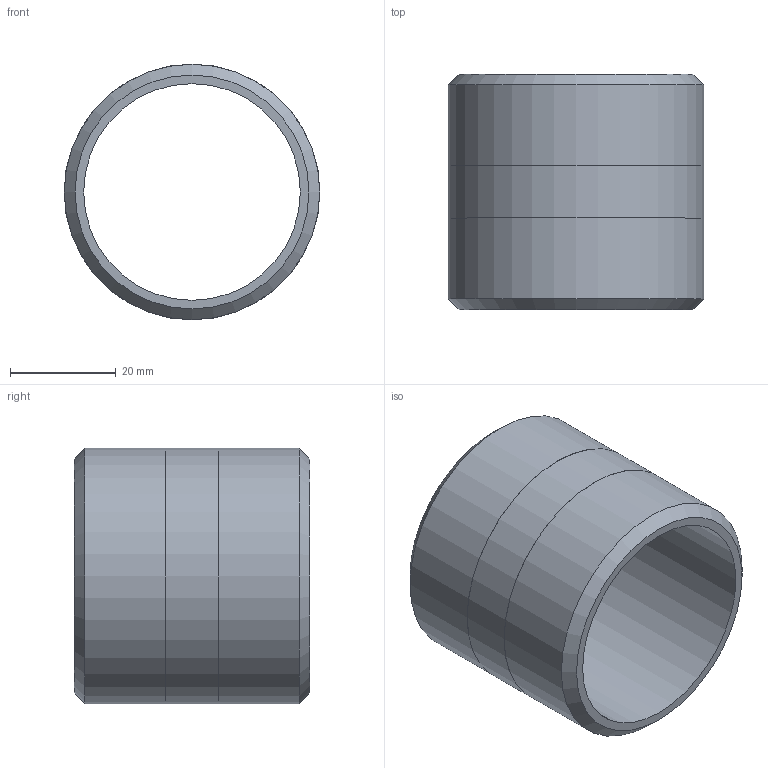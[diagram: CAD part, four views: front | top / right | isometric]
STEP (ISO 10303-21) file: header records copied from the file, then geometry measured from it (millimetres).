
FILE_DESCRIPTION(/* description */ (''),/* implementation_level */ '2;1');
FILE_NAME(/* name */ 'C:/Users/drich/Desktop/SSPN1-1_2-CLOSE v1.step',/* time_stamp */ '2020-01-03T16:21:17-06:00',/* author */ (''),/* organization */ (''),/* preprocessor_version */ 'ST-DEVELOPER v18',/* originating_system */ 'Autodesk Translation Framework v8.12.0.6',/* authorisation */ '');
FILE_SCHEMA (('AUTOMOTIVE_DESIGN { 1 0 10303 214 3 1 1 }'));
Length unit declared in the file: inch
Products named in the file (1): SSPN1-1_2-CLOSE
Bounding box: 48.26 x 44.45 x 48.26 mm (x, y, z)
Volume: 22185.4 mm3; surface area: 13104.5 mm2
Topology: 1 solids, 1 shells, 10 faces, 24 edges, 18 vertices
Faces by surface type: cylinder 4, plane 4, cone 2
Full cylindrical faces by diameter (mm): 40.894 x1, 48.209 x2, 48.26 x1
Entity records: 353 total; most frequent: DIRECTION 64, CARTESIAN_POINT 53, ORIENTED_EDGE 48, AXIS2_PLACEMENT_3D 29, EDGE_CURVE 24, CIRCLE 18, VERTEX_POINT 18, EDGE_LOOP 14
